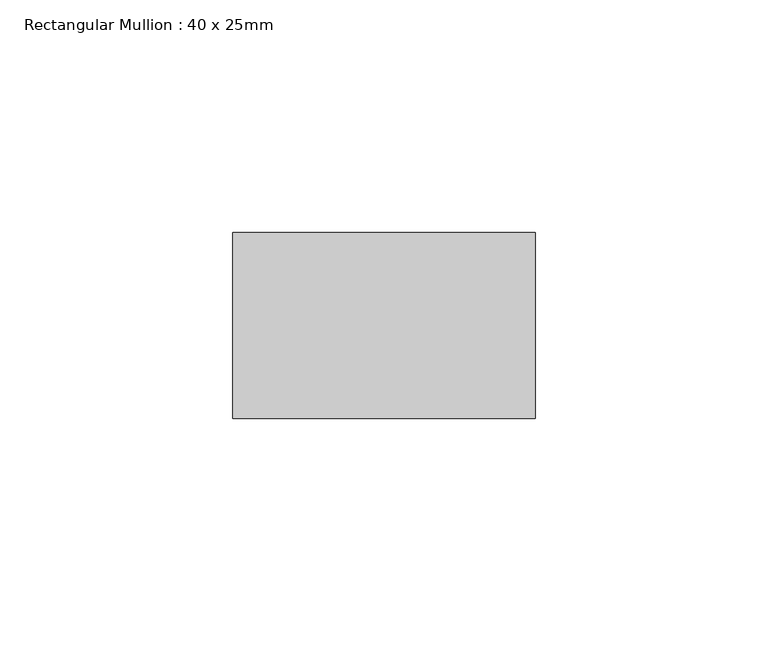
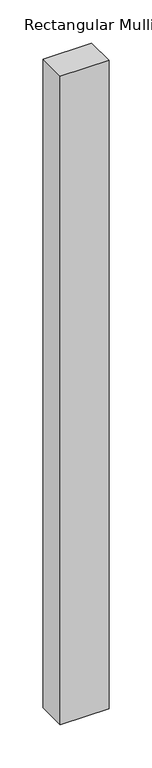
"""IFC4 building model written with IfcOpenShell, lengths in millimetres: member geometry, Rectangular Mullion : 40 x 25mm."""

import ifcopenshell
import ifcopenshell.guid

model = None  # the IFC model being written
_history = None  # IfcOwnerHistory: only IFC2X3 demands one
_inside = {}  # id of a spatial element -> (the spatial element, [elements in it])
_under = {}  # id of a project, library or spatial element -> (it, [spatial elements below it])
_declared = {}  # id of a project -> (the project, [libraries it declares])
_typed = {}  # id of a type object -> (the type object, [elements of that type])
_made_of = {}  # id of a material, layer set ... -> (it, [elements and type objects made of it])


def new_model(schema):
    """Start an empty IFC model of exactly this schema.

    Asked for "IFC4X3", IfcOpenShell would pick the latest addendum, in which some entities
    have other attributes; the version numbers below select the first issue.
    IFC2X3 requires an IfcOwnerHistory on every rooted entity: one is made here for all.
    """
    global model, _history
    if schema == "IFC4X3":
        model = ifcopenshell.file(schema_version=(4, 3, 0, 0))
    else:
        model = ifcopenshell.file(schema=schema)
    _inside.clear()
    _under.clear()
    _declared.clear()
    _typed.clear()
    _made_of.clear()
    _history = None
    if model.schema == "IFC2X3":
        org = make("IfcOrganization", Name="unknown")
        user = make(
            "IfcPersonAndOrganization",
            ThePerson=make("IfcPerson", FamilyName="unknown"),
            TheOrganization=org,
        )
        app = make(
            "IfcApplication",
            ApplicationDeveloper=org,
            Version="unknown",
            ApplicationFullName="unknown",
            ApplicationIdentifier="unknown",
        )
        _history = make(
            "IfcOwnerHistory",
            OwningUser=user,
            OwningApplication=app,
            ChangeAction="ADDED",
            CreationDate=0,
        )
    return model


def make(cls, **values):
    """One entity of the class cls with the attributes given. An attribute that is None is left unset."""
    return model.create_entity(
        cls, **{name: value for name, value in values.items() if value is not None}
    )


def rooted(cls, **values):
    """An entity with a GlobalId (a new one), such as an element, a storey or a relation."""
    return make(cls, GlobalId=ifcopenshell.guid.new(), OwnerHistory=_history, **values)


def si_unit(unit_type, name, prefix=None):
    """IfcSIUnit, for example si_unit("LENGTHUNIT", "METRE", prefix="MILLI")."""
    return make("IfcSIUnit", UnitType=unit_type, Prefix=prefix, Name=name)


def assignment(units):
    """IfcUnitAssignment: the units of a project."""
    return None if units is None else make("IfcUnitAssignment", Units=units)


def point(xyz):
    """IfcCartesianPoint."""
    return None if xyz is None else make("IfcCartesianPoint", Coordinates=xyz)


def direction(xyz):
    """IfcDirection."""
    return None if xyz is None else make("IfcDirection", DirectionRatios=xyz)


def frame(location, z_axis=None, x_axis=None):
    """IfcAxis2Placement3D, a coordinate frame: its origin and axes. An axis left out is left unset."""
    return make(
        "IfcAxis2Placement3D",
        Location=point(location),
        Axis=direction(z_axis),
        RefDirection=direction(x_axis),
    )


def origin():
    """The frame at (0, 0, 0) with its axes left unset."""
    return frame((0.0, 0.0, 0.0))


def place(relative_to, where):
    """IfcLocalPlacement: puts the frame where relative to a parent placement (None: the world)."""
    return make(
        "IfcLocalPlacement", PlacementRelTo=relative_to, RelativePlacement=where
    )


def context(
    kind, dimensions, precision=None, world=None, true_north=None, identifier=None
):
    """IfcGeometricRepresentationContext, for example the 3D "Model" context."""
    return make(
        "IfcGeometricRepresentationContext",
        ContextIdentifier=identifier,
        ContextType=kind,
        CoordinateSpaceDimension=dimensions,
        Precision=precision,
        WorldCoordinateSystem=world,
        TrueNorth=true_north,
    )


def project(units=None, contexts=None):
    """IfcProject with its units and contexts."""
    return rooted(
        "IfcProject",
        Name="project",
        RepresentationContexts=contexts,
        UnitsInContext=assignment(units),
    )


def spatial(cls, under=None, at=None, **own):
    """A site, building, storey or space (cls), placed at a placement, below another one or the project."""
    s = rooted(cls, ObjectPlacement=at, **own)
    if under is not None:
        _under.setdefault(under.id(), (under, []))[1].append(s)
    return s


def polyline(points):
    """IfcPolyline through the points."""
    return make("IfcPolyline", Points=[point(p) for p in points])


def outline(outer, holes=None, kind="AREA"):
    """IfcArbitraryClosedProfileDef: a profile drawn as a closed curve; with holes, ...WithVoids."""
    if holes is None:
        return make("IfcArbitraryClosedProfileDef", ProfileType=kind, OuterCurve=outer)
    return make(
        "IfcArbitraryProfileDefWithVoids",
        ProfileType=kind,
        OuterCurve=outer,
        InnerCurves=holes,
    )


def extrude(swept, where, along, depth):
    """IfcExtrudedAreaSolid: the profile swept, set in the frame where, extruded along a direction by depth."""
    return make(
        "IfcExtrudedAreaSolid",
        SweptArea=swept,
        Position=where,
        ExtrudedDirection=direction(along),
        Depth=depth,
    )


def shape(context_of_items, identifier, shape_type, items):
    """IfcShapeRepresentation: the items that make up one representation, for example the "Body"."""
    return make(
        "IfcShapeRepresentation",
        ContextOfItems=context_of_items,
        RepresentationIdentifier=identifier,
        RepresentationType=shape_type,
        Items=items,
    )


def source(mapping_origin, context_of_items, identifier, shape_type, items):
    """IfcRepresentationMap: a shape defined once, which mapped items show again and again."""
    return make(
        "IfcRepresentationMap",
        MappingOrigin=mapping_origin,
        MappedRepresentation=shape(context_of_items, identifier, shape_type, items),
    )


def transform(
    local_origin,
    x_axis=None,
    y_axis=None,
    z_axis=None,
    scale=None,
    scale2=None,
    scale3=None,
    uniform=True,
):
    """IfcCartesianTransformationOperator3D, or its non-uniform kind. x_axis, y_axis, z_axis: its Axis1, 2, 3."""
    if uniform:
        return make(
            "IfcCartesianTransformationOperator3D",
            Axis1=direction(x_axis),
            Axis2=direction(y_axis),
            LocalOrigin=point(local_origin),
            Scale=scale,
            Axis3=direction(z_axis),
        )
    return make(
        "IfcCartesianTransformationOperator3DnonUniform",
        Axis1=direction(x_axis),
        Axis2=direction(y_axis),
        LocalOrigin=point(local_origin),
        Scale=scale,
        Axis3=direction(z_axis),
        Scale2=scale2,
        Scale3=scale3,
    )


def mapped(mapping_source, mapping_target):
    """IfcMappedItem: shows the shape of a source again, moved by a transform."""
    return make(
        "IfcMappedItem", MappingSource=mapping_source, MappingTarget=mapping_target
    )


def made_of(thing, what):
    """Note that an element or type object is made of a material, layer set ...; save() writes the relation."""
    if what is not None:
        _made_of.setdefault(what.id(), (what, []))[1].append(thing)
    return thing


def element(
    cls,
    number,
    at=None,
    inside=None,
    cuts=None,
    type_object=None,
    material=None,
    context=None,
    identifier="Body",
    shape_type=None,
    held_by="IfcProductDefinitionShape",
    body=None,
    shapes=None,
    **own,
):
    """One element of the class cls, such as IfcWall. Its Tag is "e" and its number.

    at: its placement. inside: the storey or other place that contains it. cuts: it is an
    opening in that element (IfcRelVoidsElement). A single representation is given by context,
    identifier, shape_type and body (its items); several are given by shapes. held_by: the class
    of the entity that holds the representations. save() writes the other relations.
    """
    e = rooted(cls, Tag="e%d" % number, ObjectPlacement=at, **own)
    if body is not None:
        shapes = [shape(context, identifier, shape_type, body)]
    if shapes is not None:
        e.Representation = make(held_by, Representations=shapes)
    if inside is not None:
        _inside.setdefault(inside.id(), (inside, []))[1].append(e)
    if cuts is not None:
        rooted(
            "IfcRelVoidsElement", RelatingBuildingElement=cuts, RelatedOpeningElement=e
        )
    if type_object is not None:
        _typed.setdefault(type_object.id(), (type_object, []))[1].append(e)
    return made_of(e, material)


def aggregate(whole, parts):
    """IfcRelAggregates: a whole, such as a stair, and the parts it consists of."""
    return rooted("IfcRelAggregates", RelatingObject=whole, RelatedObjects=parts)


def save(model, path):
    """Write the relations noted so far, then the file.

    IfcRelAggregates (storeys below a building ...), IfcRelContainedInSpatialStructure (elements
    in a storey), IfcRelDefinesByType, IfcRelAssociatesMaterial and IfcRelDeclares: one each for
    every whole, place, type object, material and project.
    """
    for whole, parts in _under.values():
        aggregate(whole, parts)
    for where, things in _inside.values():
        rooted(
            "IfcRelContainedInSpatialStructure",
            RelatedElements=things,
            RelatingStructure=where,
        )
    for kind, things in _typed.values():
        rooted("IfcRelDefinesByType", RelatedObjects=things, RelatingType=kind)
    for what, things in _made_of.values():
        rooted("IfcRelAssociatesMaterial", RelatedObjects=things, RelatingMaterial=what)
    for by, libraries in _declared.values():
        rooted("IfcRelDeclares", RelatingContext=by, RelatedDefinitions=libraries)
    model.write(path)


def rectangular_mullion_40_x_25mm_80ca55a7(model_context):
    return source(origin(), model_context, "Body", "SweptSolid", [
        extrude(outline(polyline([(0.0, -20.0), (0.0, -60.0), (-65.0, -60.0), (-65.0, -20.0), (0.0, -20.0)])), frame((0.0, 0.0, -916.6666667), z_axis=(0.0, 0.0, 1.0), x_axis=(1.0, 0.0, 0.0)), (0.0, 0.0, 1.0), 916.6666667),
    ])


if __name__ == "__main__":
    model = new_model("IFC4")
    model_context = context("Model", 3, world=origin())
    ifc_project = project(units=[si_unit("LENGTHUNIT", "METRE", prefix="MILLI")], contexts=[model_context])
    site = spatial("IfcSite", under=ifc_project)
    building = spatial("IfcBuilding", under=site)
    placement = place(None, origin())
    rectangular_mullion_40_x_25mm_shape = rectangular_mullion_40_x_25mm_80ca55a7(model_context)
    element("IfcMember", 1, ObjectType="Rectangular Mullion : 40 x 25mm", at=placement, inside=building, context=model_context, shape_type="MappedRepresentation", body=[
        mapped(rectangular_mullion_40_x_25mm_shape, transform((0.0, 0.0, 0.0), x_axis=(1.0, 0.0, 0.0), y_axis=(0.0, 1.0, 0.0), z_axis=(0.0, 0.0, 1.0))),
    ])
    save(model, "model.ifc")
